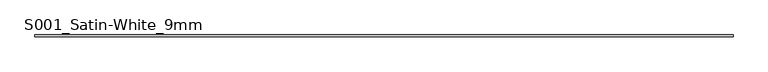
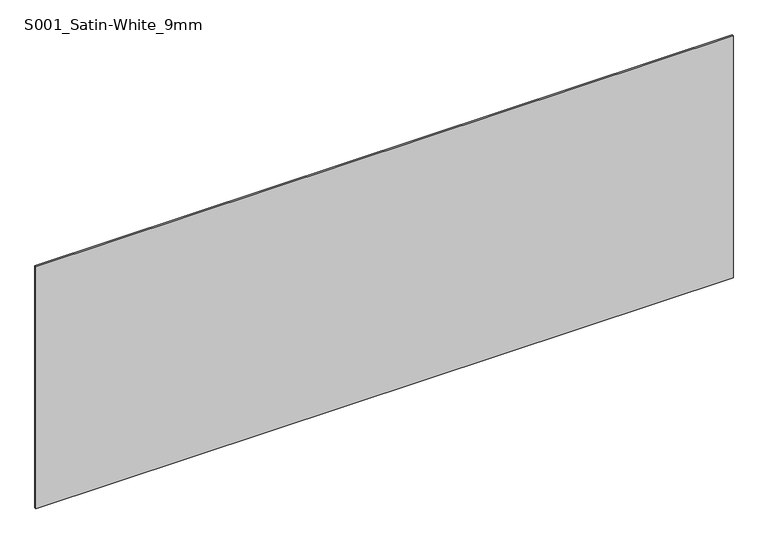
"""IFC4 building model written with IfcOpenShell, lengths in millimetres: plate geometry, Curtain-Panels_Outdoor-Material_HI-MACS_Solids : S001_Satin-White_9mm."""

from ifc_helpers import new_model, si_unit, origin, origin_with_axes, place, context, project, spatial, polyline, outline, extrude, source, transform, mapped, element, save


def s001_satin_white_9mm_5d54b168(model_context):
    return source(origin(), model_context, "Body", "SweptSolid", [
        extrude(outline(polyline([(1840.0, 4.5), (1840.0, -4.5), (-1840.0, -4.5), (-1840.0, 4.5), (1840.0, 4.5)])), origin_with_axes(), (0.0, 0.0, 1.0), 1350.0),
    ])


if __name__ == "__main__":
    model = new_model("IFC4")
    model_context = context("Model", 3, world=origin())
    ifc_project = project(units=[si_unit("LENGTHUNIT", "METRE", prefix="MILLI")], contexts=[model_context])
    site = spatial("IfcSite", under=ifc_project)
    building = spatial("IfcBuilding", under=site)
    placement = place(None, origin())
    s001_satin_white_9mm_shape = s001_satin_white_9mm_5d54b168(model_context)
    element("IfcPlate", 1, ObjectType="Curtain-Panels_Outdoor-Material_HI-MACS_Solids : S001_Satin-White_9mm", at=placement, inside=building, context=model_context, shape_type="MappedRepresentation", body=[
        mapped(s001_satin_white_9mm_shape, transform((0.0, 0.0, 0.0), x_axis=(1.0, 0.0, 0.0), y_axis=(0.0, 1.0, 0.0), z_axis=(0.0, 0.0, 1.0))),
    ])
    save(model, "model.ifc")
